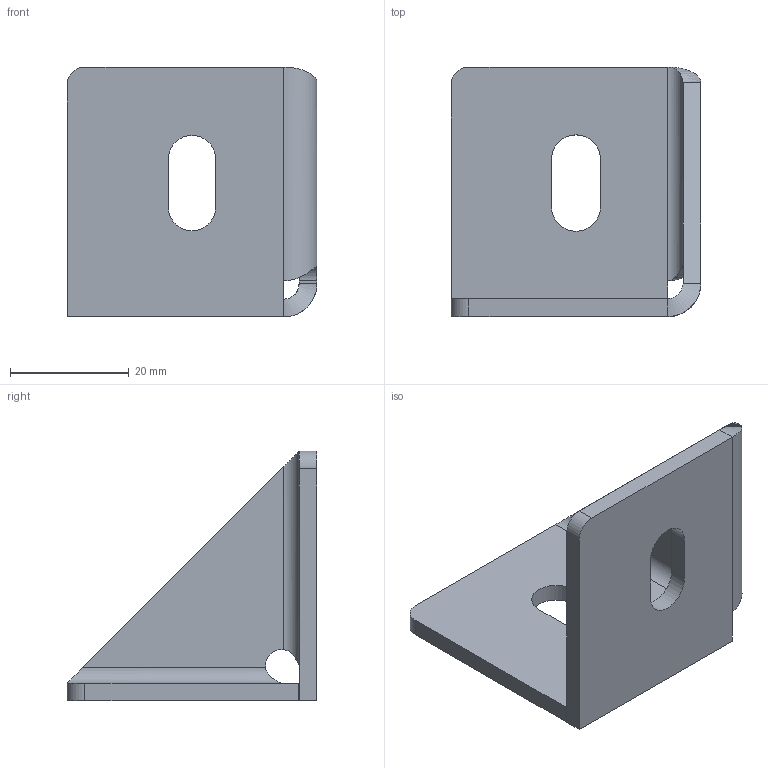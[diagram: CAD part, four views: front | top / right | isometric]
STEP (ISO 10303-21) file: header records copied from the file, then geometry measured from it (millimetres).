
FILE_DESCRIPTION (( 'STEP AP214' ), '1' );
FILE_NAME ('8301s.STEP', '2015-04-09T09:33:05', ( '' ), ( '' ), 'SwSTEP 2.0', 'SolidWorks 2014', '' );
FILE_SCHEMA (( 'AUTOMOTIVE_DESIGN' ));
Length unit declared in the file: millimetre
Products named in the file (1): 8301s
Bounding box: 42 x 42 x 42 mm (x, y, z)
Volume: 11118.3 mm3; surface area: 8602.6 mm2
Topology: 1 solids, 1 shells, 37 faces, 89 edges, 54 vertices
Faces by surface type: plane 21, cylinder 12, bspline 4
Entity records: 1197 total; most frequent: CARTESIAN_POINT 327, ORIENTED_EDGE 178, DIRECTION 161, EDGE_CURVE 89, VECTOR 61, LINE 61, VERTEX_POINT 54, AXIS2_PLACEMENT_3D 50
